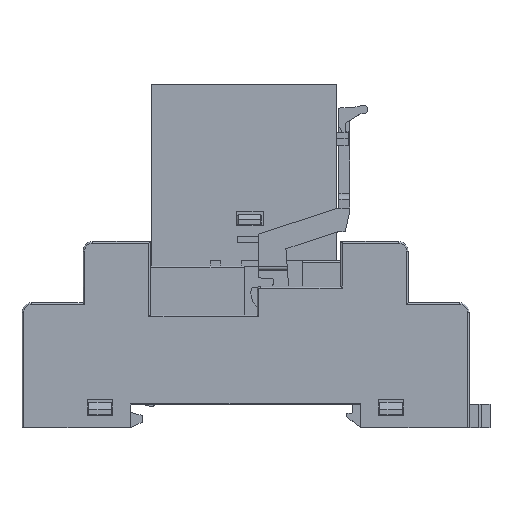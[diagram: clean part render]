
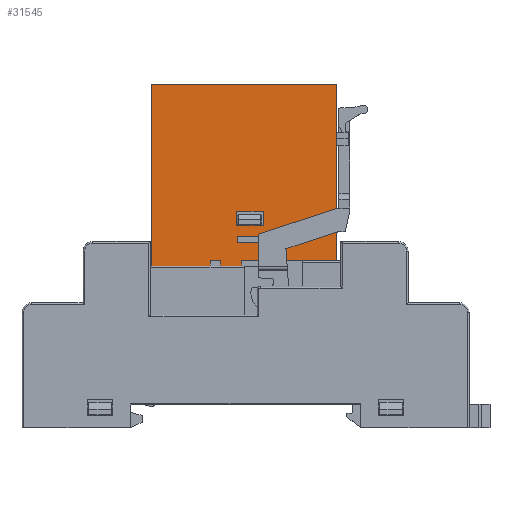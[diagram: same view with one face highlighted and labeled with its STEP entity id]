
A CAD part, top view. The second image highlights one B-rep face of the part: STEP entity #31545.
In plain terms, the highlighted planar face has unit normal (0, 0, 1).
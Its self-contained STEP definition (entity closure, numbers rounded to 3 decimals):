
#992 = ORIENTED_EDGE ( 'NONE', *, *, #14340, .F. ) ;
#1264 = DIRECTION ( 'NONE',  ( -1., 0., 0. ) ) ;
#2293 = VECTOR ( 'NONE', #1264, 1000. ) ;
#2417 = EDGE_CURVE ( 'NONE', #19321, #43426, #44236, .T. ) ;
#2810 = EDGE_CURVE ( 'NONE', #3262, #28070, #6578, .T. ) ;
#3009 = ORIENTED_EDGE ( 'NONE', *, *, #2417, .T. ) ;
#3262 = VERTEX_POINT ( 'NONE', #45005 ) ;
#3524 = VERTEX_POINT ( 'NONE', #14249 ) ;
#3782 = EDGE_LOOP ( 'NONE', ( #992, #24927, #11158, #3009 ) ) ;
#4438 = DIRECTION ( 'NONE',  ( 0., 1., 0. ) ) ;
#5085 = CARTESIAN_POINT ( 'NONE',  ( -1.466, 22.249, 6.3 ) ) ;
#5104 = CARTESIAN_POINT ( 'NONE',  ( -5.566, 14.549, 6.3 ) ) ;
#5687 = VERTEX_POINT ( 'NONE', #44478 ) ;
#5844 = CARTESIAN_POINT ( 'NONE',  ( 2.734, 20.049, 6.3 ) ) ;
#5984 = VERTEX_POINT ( 'NONE', #5104 ) ;
#6526 = DIRECTION ( 'NONE',  ( 0., -1., 0. ) ) ;
#6535 = EDGE_CURVE ( 'NONE', #9993, #42036, #10621, .T. ) ;
#6578 = LINE ( 'NONE', #50286, #27866 ) ;
#6881 = VERTEX_POINT ( 'NONE', #5085 ) ;
#7278 = CARTESIAN_POINT ( 'NONE',  ( 14.134, 42.049, 6.3 ) ) ;
#7279 = CARTESIAN_POINT ( 'NONE',  ( -14.666, 14.549, 6.3 ) ) ;
#7580 = CARTESIAN_POINT ( 'NONE',  ( -3.966, 13.549, 6.3 ) ) ;
#7891 = EDGE_CURVE ( 'NONE', #3524, #19321, #22367, .T. ) ;
#8096 = EDGE_CURVE ( 'NONE', #37285, #3524, #14827, .T. ) ;
#8614 = CARTESIAN_POINT ( 'NONE',  ( -5.566, 13.549, 6.3 ) ) ;
#9145 = EDGE_CURVE ( 'NONE', #9993, #5687, #28378, .T. ) ;
#9298 = VECTOR ( 'NONE', #31079, 1000. ) ;
#9993 = VERTEX_POINT ( 'NONE', #22918 ) ;
#10251 = ORIENTED_EDGE ( 'NONE', *, *, #11298, .F. ) ;
#10621 = LINE ( 'NONE', #42999, #9298 ) ;
#10665 = CARTESIAN_POINT ( 'NONE',  ( -0.666, 14.549, 6.3 ) ) ;
#11000 = EDGE_CURVE ( 'NONE', #15142, #22480, #44587, .T. ) ;
#11158 = ORIENTED_EDGE ( 'NONE', *, *, #7891, .T. ) ;
#11266 = DIRECTION ( 'NONE',  ( 0., -1., 0. ) ) ;
#11298 = EDGE_CURVE ( 'NONE', #25275, #27922, #32051, .T. ) ;
#11310 = DIRECTION ( 'NONE',  ( 1., 0., 0. ) ) ;
#12172 = CARTESIAN_POINT ( 'NONE',  ( -14.666, 14.549, 6.3 ) ) ;
#12740 = VECTOR ( 'NONE', #31826, 1000. ) ;
#12762 = ORIENTED_EDGE ( 'NONE', *, *, #49502, .F. ) ;
#13623 = VECTOR ( 'NONE', #38679, 1000. ) ;
#13657 = CARTESIAN_POINT ( 'NONE',  ( 14.134, 14.549, 6.3 ) ) ;
#13722 = DIRECTION ( 'NONE',  ( -1., 0., 0. ) ) ;
#13864 = EDGE_CURVE ( 'NONE', #17256, #15142, #27852, .T. ) ;
#14249 = CARTESIAN_POINT ( 'NONE',  ( 2.634, 17.449, 6.3 ) ) ;
#14340 = EDGE_CURVE ( 'NONE', #37285, #43426, #26557, .T. ) ;
#14674 = CARTESIAN_POINT ( 'NONE',  ( -14.666, 14.549, 6.3 ) ) ;
#14827 = LINE ( 'NONE', #38405, #45504 ) ;
#14906 = LINE ( 'NONE', #14674, #13623 ) ;
#15142 = VERTEX_POINT ( 'NONE', #24577 ) ;
#16998 = ORIENTED_EDGE ( 'NONE', *, *, #19436, .F. ) ;
#17207 = VECTOR ( 'NONE', #18934, 1000. ) ;
#17256 = VERTEX_POINT ( 'NONE', #28711 ) ;
#17303 = CARTESIAN_POINT ( 'NONE',  ( -3.966, 14.549, 6.3 ) ) ;
#17429 = VERTEX_POINT ( 'NONE', #13657 ) ;
#18063 = LINE ( 'NONE', #44888, #38112 ) ;
#18143 = FACE_BOUND ( 'NONE', #46178, .T. ) ;
#18934 = DIRECTION ( 'NONE',  ( 0., -1., 0. ) ) ;
#19321 = VERTEX_POINT ( 'NONE', #23106 ) ;
#19436 = EDGE_CURVE ( 'NONE', #26795, #5687, #35269, .T. ) ;
#19466 = VECTOR ( 'NONE', #11310, 1000. ) ;
#20117 = VECTOR ( 'NONE', #35593, 1000. ) ;
#20935 = EDGE_CURVE ( 'NONE', #17429, #42036, #26945, .T. ) ;
#21598 = DIRECTION ( 'NONE',  ( 0., -1., 0. ) ) ;
#22101 = EDGE_CURVE ( 'NONE', #26795, #5984, #18063, .T. ) ;
#22367 = LINE ( 'NONE', #25241, #2293 ) ;
#22480 = VERTEX_POINT ( 'NONE', #43670 ) ;
#22918 = CARTESIAN_POINT ( 'NONE',  ( -14.666, 42.049, 6.3 ) ) ;
#23106 = CARTESIAN_POINT ( 'NONE',  ( -1.366, 17.449, 6.3 ) ) ;
#23314 = ORIENTED_EDGE ( 'NONE', *, *, #9145, .T. ) ;
#24375 = CARTESIAN_POINT ( 'NONE',  ( -1.366, 18.249, 6.3 ) ) ;
#24429 = VECTOR ( 'NONE', #11266, 1000. ) ;
#24451 = ORIENTED_EDGE ( 'NONE', *, *, #31024, .T. ) ;
#24577 = CARTESIAN_POINT ( 'NONE',  ( 2.734, 20.049, 6.3 ) ) ;
#24927 = ORIENTED_EDGE ( 'NONE', *, *, #8096, .T. ) ;
#25238 = ORIENTED_EDGE ( 'NONE', *, *, #41792, .F. ) ;
#25241 = CARTESIAN_POINT ( 'NONE',  ( 2.634, 17.449, 6.3 ) ) ;
#25275 = VERTEX_POINT ( 'NONE', #29135 ) ;
#25997 = CARTESIAN_POINT ( 'NONE',  ( 14.134, 18.249, 6.3 ) ) ;
#26312 = DIRECTION ( 'NONE',  ( 0., 1., 0. ) ) ;
#26557 = LINE ( 'NONE', #25997, #46638 ) ;
#26795 = VERTEX_POINT ( 'NONE', #8614 ) ;
#26945 = LINE ( 'NONE', #42166, #47019 ) ;
#27174 = CARTESIAN_POINT ( 'NONE',  ( -1.466, 22.249, 6.3 ) ) ;
#27637 = CARTESIAN_POINT ( 'NONE',  ( -14.666, 13.549, 6.3 ) ) ;
#27852 = LINE ( 'NONE', #47105, #17207 ) ;
#27866 = VECTOR ( 'NONE', #26312, 1000. ) ;
#27922 = VERTEX_POINT ( 'NONE', #17303 ) ;
#28070 = VERTEX_POINT ( 'NONE', #10665 ) ;
#28378 = LINE ( 'NONE', #12172, #37793 ) ;
#28711 = CARTESIAN_POINT ( 'NONE',  ( 2.734, 22.249, 6.3 ) ) ;
#28755 = FACE_OUTER_BOUND ( 'NONE', #40955, .T. ) ;
#29083 = ORIENTED_EDGE ( 'NONE', *, *, #6535, .F. ) ;
#29135 = CARTESIAN_POINT ( 'NONE',  ( -3.966, 13.549, 6.3 ) ) ;
#30035 = DIRECTION ( 'NONE',  ( -1., 0., 0. ) ) ;
#31024 = EDGE_CURVE ( 'NONE', #5984, #27922, #43294, .T. ) ;
#31079 = DIRECTION ( 'NONE',  ( 1., 0., 0. ) ) ;
#31545 = ADVANCED_FACE ( 'NONE', ( #28755, #50049, #18143 ), #41561, .F. ) ;
#31826 = DIRECTION ( 'NONE',  ( 1., 0., 0. ) ) ;
#31863 = DIRECTION ( 'NONE',  ( -1., 0., 0. ) ) ;
#32051 = LINE ( 'NONE', #7580, #20117 ) ;
#32653 = ORIENTED_EDGE ( 'NONE', *, *, #13864, .T. ) ;
#33514 = CARTESIAN_POINT ( 'NONE',  ( -14.666, 18.249, 6.3 ) ) ;
#33713 = CARTESIAN_POINT ( 'NONE',  ( -3.966, 13.549, 6.3 ) ) ;
#33952 = VECTOR ( 'NONE', #41902, 1000. ) ;
#35269 = LINE ( 'NONE', #27637, #44630 ) ;
#35593 = DIRECTION ( 'NONE',  ( 0., 1., 0. ) ) ;
#36359 = LINE ( 'NONE', #27174, #24429 ) ;
#37285 = VERTEX_POINT ( 'NONE', #40544 ) ;
#37601 = AXIS2_PLACEMENT_3D ( 'NONE', #33514, #45575, #21598 ) ;
#37793 = VECTOR ( 'NONE', #48200, 1000. ) ;
#38112 = VECTOR ( 'NONE', #48884, 1000. ) ;
#38313 = DIRECTION ( 'NONE',  ( 0., 1., 0. ) ) ;
#38405 = CARTESIAN_POINT ( 'NONE',  ( 2.634, 18.249, 6.3 ) ) ;
#38679 = DIRECTION ( 'NONE',  ( 1., 0., 0. ) ) ;
#38934 = ORIENTED_EDGE ( 'NONE', *, *, #2810, .T. ) ;
#40544 = CARTESIAN_POINT ( 'NONE',  ( 2.634, 18.249, 6.3 ) ) ;
#40651 = ORIENTED_EDGE ( 'NONE', *, *, #20935, .T. ) ;
#40955 = EDGE_LOOP ( 'NONE', ( #40651, #29083, #23314, #16998, #48385, #24451, #10251, #25238, #38934, #50253 ) ) ;
#41118 = LINE ( 'NONE', #33713, #50475 ) ;
#41561 = PLANE ( 'NONE',  #37601 ) ;
#41792 = EDGE_CURVE ( 'NONE', #3262, #25275, #41118, .T. ) ;
#41902 = DIRECTION ( 'NONE',  ( -1., 0., 0. ) ) ;
#42036 = VERTEX_POINT ( 'NONE', #7278 ) ;
#42166 = CARTESIAN_POINT ( 'NONE',  ( 14.134, 14.549, 6.3 ) ) ;
#42992 = VECTOR ( 'NONE', #4438, 1000. ) ;
#42999 = CARTESIAN_POINT ( 'NONE',  ( -14.666, 42.049, 6.3 ) ) ;
#43294 = LINE ( 'NONE', #7279, #19466 ) ;
#43426 = VERTEX_POINT ( 'NONE', #44760 ) ;
#43476 = ORIENTED_EDGE ( 'NONE', *, *, #11000, .T. ) ;
#43670 = CARTESIAN_POINT ( 'NONE',  ( -1.466, 20.049, 6.3 ) ) ;
#43959 = EDGE_CURVE ( 'NONE', #28070, #17429, #14906, .T. ) ;
#44087 = CARTESIAN_POINT ( 'NONE',  ( 2.734, 22.249, 6.3 ) ) ;
#44236 = LINE ( 'NONE', #24375, #42992 ) ;
#44478 = CARTESIAN_POINT ( 'NONE',  ( -14.666, 13.549, 6.3 ) ) ;
#44587 = LINE ( 'NONE', #5844, #33952 ) ;
#44630 = VECTOR ( 'NONE', #31863, 1000. ) ;
#44701 = LINE ( 'NONE', #44087, #12740 ) ;
#44760 = CARTESIAN_POINT ( 'NONE',  ( -1.366, 18.249, 6.3 ) ) ;
#44888 = CARTESIAN_POINT ( 'NONE',  ( -5.566, 13.549, 6.3 ) ) ;
#45005 = CARTESIAN_POINT ( 'NONE',  ( -0.666, 13.549, 6.3 ) ) ;
#45504 = VECTOR ( 'NONE', #6526, 1000. ) ;
#45575 = DIRECTION ( 'NONE',  ( 0., 0., -1. ) ) ;
#46178 = EDGE_LOOP ( 'NONE', ( #12762, #49491, #32653, #43476 ) ) ;
#46638 = VECTOR ( 'NONE', #30035, 1000. ) ;
#46663 = EDGE_CURVE ( 'NONE', #6881, #17256, #44701, .T. ) ;
#47019 = VECTOR ( 'NONE', #38313, 1000. ) ;
#47105 = CARTESIAN_POINT ( 'NONE',  ( 2.734, 22.249, 6.3 ) ) ;
#48200 = DIRECTION ( 'NONE',  ( 0., -1., 0. ) ) ;
#48385 = ORIENTED_EDGE ( 'NONE', *, *, #22101, .T. ) ;
#48884 = DIRECTION ( 'NONE',  ( 0., 1., 0. ) ) ;
#49491 = ORIENTED_EDGE ( 'NONE', *, *, #46663, .T. ) ;
#49502 = EDGE_CURVE ( 'NONE', #6881, #22480, #36359, .T. ) ;
#50049 = FACE_BOUND ( 'NONE', #3782, .T. ) ;
#50253 = ORIENTED_EDGE ( 'NONE', *, *, #43959, .T. ) ;
#50286 = CARTESIAN_POINT ( 'NONE',  ( -0.666, 13.549, 6.3 ) ) ;
#50475 = VECTOR ( 'NONE', #13722, 1000. ) ;
